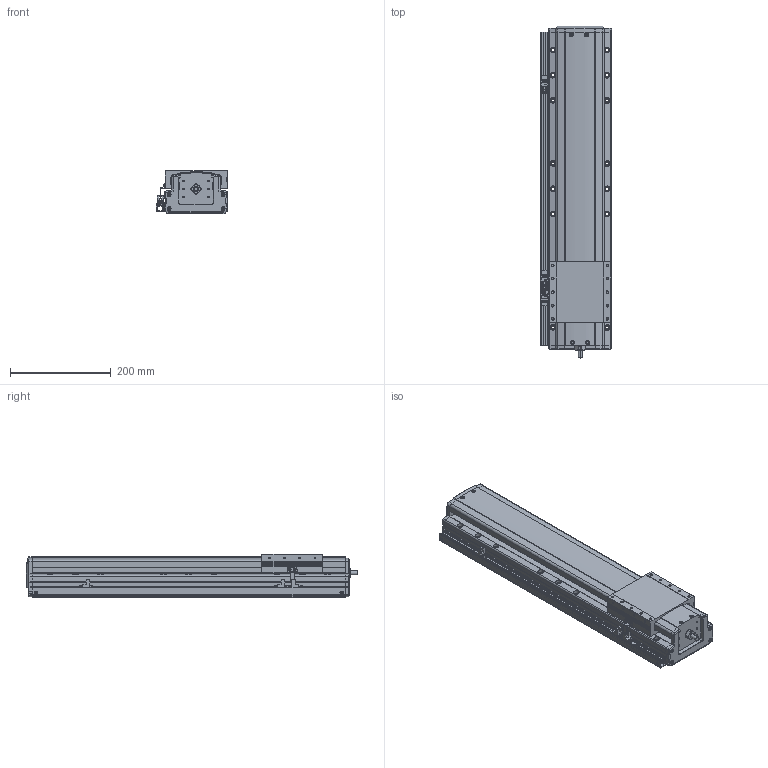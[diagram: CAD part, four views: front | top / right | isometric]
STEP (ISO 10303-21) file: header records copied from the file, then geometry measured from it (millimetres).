
FILE_DESCRIPTION(('STEP AP214'),'1');
FILE_NAME('Z:/Web/3D/PSA125/STP/PSA125-400 (3D)/PSA125ㅁㅁ-400+3SL.stp','2014-06-22T23:52:13',(' '),(' '),'Spatial InterOp 3D',' ',' ');
FILE_SCHEMA(('automotive_design'));
Length unit declared in the file: millimetre
Products named in the file (36): 스크루 : Round - M4.0 x 10.0; RRCV-PA120; SLIDE; BASE; FRCV-PA120-1(기준 뿔 제거); RR1500; 스크루 : Round - M4.0 x 6.0; 너트 : Square - M10.0 x 220.7419; EE-SX674; SBK-SX674-352; 스크루 : Round - M3.0 x 6.0; M3.0 x 6.0; SRL-16x17-380L; SGD-PA95; 스크루 : Round - M3.0 x 8.0
Bounding box: 141 x 658.1 x 86 mm (x, y, z)
Volume: 5450217.5 mm3; surface area: 542169.3 mm2
Topology: 36 solids, 36 shells, 2339 faces, 6257 edges, 4022 vertices
Faces by surface type: plane 1363, cylinder 648, cone 220, sphere 52, bspline 31, torus 25
Entity records: 93741 total; most frequent: CARTESIAN_POINT 15350, DIRECTION 12419, ORIENTED_EDGE 12278, EDGE_CURVE 6139, LINE 4211, VECTOR 4211, AXIS2_PLACEMENT_3D 4104, VERTEX_POINT 4022
